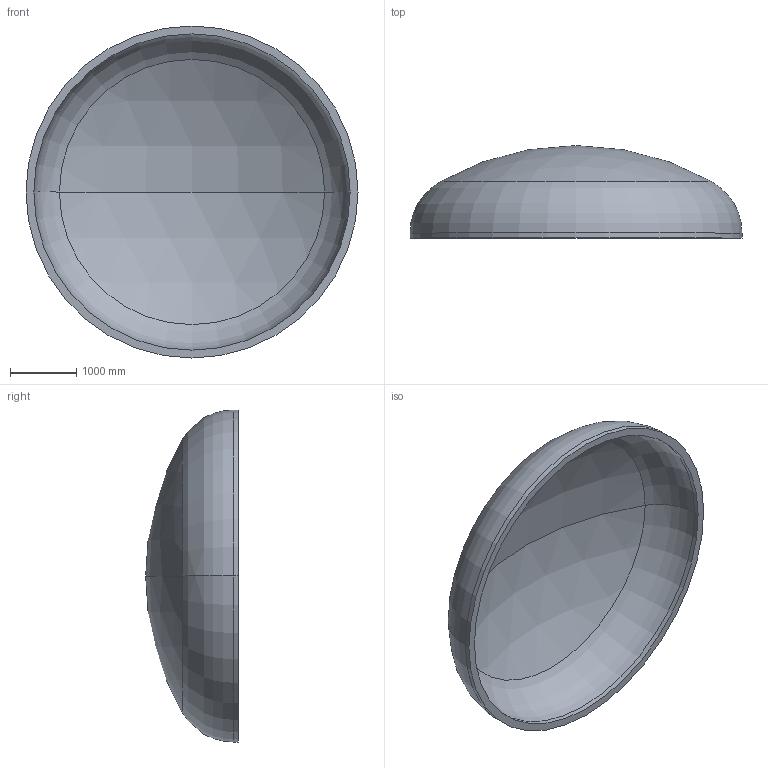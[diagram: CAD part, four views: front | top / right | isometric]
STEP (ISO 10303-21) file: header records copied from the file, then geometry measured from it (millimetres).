
FILE_DESCRIPTION (( 'STEP AP203' ), '1' );
FILE_NAME ('DIN 28013 Korbbogenform_-_Boden DIN 28013 - 5000 x 75 - I - s=118.step', '2016-07-02T01:04:13', ( '' ), ( '' ), 'SwSTEP 2.0', 'SolidWorks 2013', '' );
FILE_SCHEMA (( 'CONFIG_CONTROL_DESIGN' ));
Length unit declared in the file: millimetre
Products named in the file (1): DIN 28013 Korbbogenform_-_Boden DIN 28013 - 5000 x 75 - I - s=118
Bounding box: 5000 x 1394.01 x 5000 mm (x, y, z)
Volume: 3246730357 mm3; surface area: 56868266.8 mm2
Topology: 1 solids, 1 shells, 13 faces, 24 edges, 14 vertices
Faces by surface type: torus 4, cylinder 4, sphere 4, plane 1
Entity records: 407 total; most frequent: DIRECTION 72, CARTESIAN_POINT 52, ORIENTED_EDGE 48, AXIS2_PLACEMENT_3D 34, EDGE_CURVE 24, CIRCLE 20, EDGE_LOOP 14, VERTEX_POINT 14
